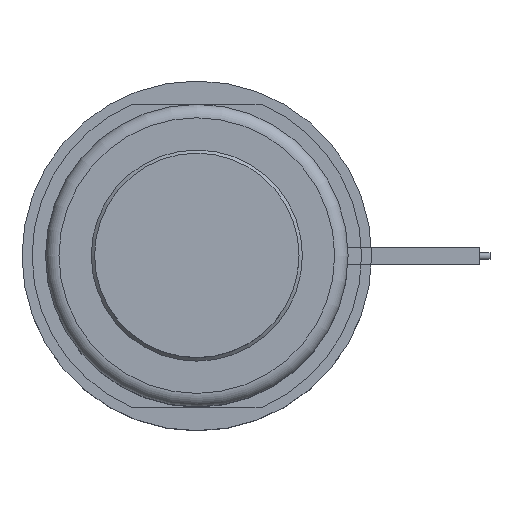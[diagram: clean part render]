
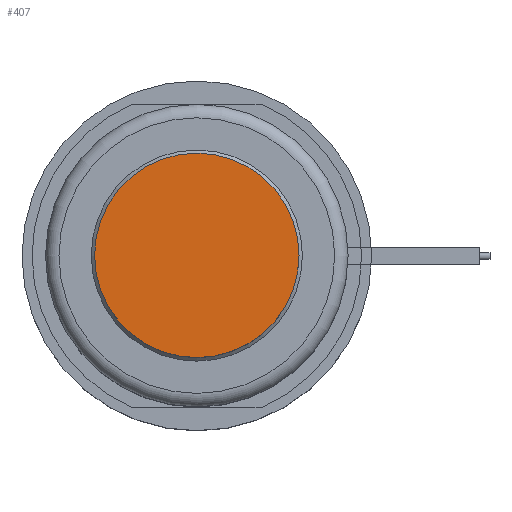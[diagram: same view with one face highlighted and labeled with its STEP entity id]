
A CAD part, top view. The second image highlights one B-rep face of the part: STEP entity #407.
In plain terms, the highlighted planar face has unit normal (0, 0, 1).
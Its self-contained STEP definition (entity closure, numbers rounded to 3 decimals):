
#257=PLANE('',#1395);
#317=FACE_OUTER_BOUND('',#633,.T.);
#407=ADVANCED_FACE('',(#317),#257,.F.);
#633=EDGE_LOOP('',(#873));
#873=ORIENTED_EDGE('',*,*,#1165,.F.);
#1034=VERTEX_POINT('',#2257);
#1165=EDGE_CURVE('',#1034,#1034,#1263,.T.);
#1263=CIRCLE('',#1394,15.2);
#1394=AXIS2_PLACEMENT_3D('',#2256,#1699,#1700);
#1395=AXIS2_PLACEMENT_3D('',#2258,#1701,#1702);
#1699=DIRECTION('',(0.,0.,-1.));
#1700=DIRECTION('',(-1.,0.,0.));
#1701=DIRECTION('',(0.,0.,-1.));
#1702=DIRECTION('',(-1.,0.,0.));
#2256=CARTESIAN_POINT('',(0.,0.,18.));
#2257=CARTESIAN_POINT('',(-15.2,0.,18.));
#2258=CARTESIAN_POINT('',(0.,0.,18.));
